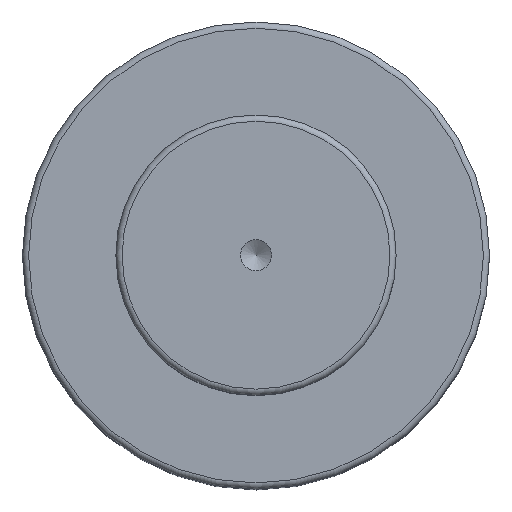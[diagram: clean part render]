
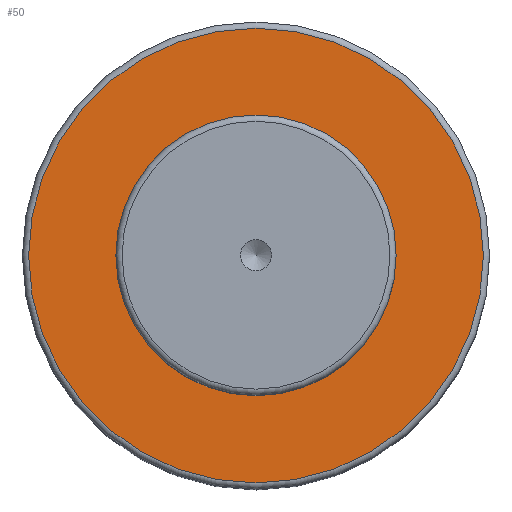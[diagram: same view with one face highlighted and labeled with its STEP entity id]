
A CAD part, top view. The second image highlights one B-rep face of the part: STEP entity #50.
In plain terms, the highlighted planar face has unit normal (0, 0, 1).
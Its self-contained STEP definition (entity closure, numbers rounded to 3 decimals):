
#40=PLANE('',#179);
#50=ADVANCED_FACE('',(#72,#73),#40,.F.);
#72=FACE_BOUND('',#96,.T.);
#73=FACE_BOUND('',#97,.T.);
#96=EDGE_LOOP('',(#118));
#97=EDGE_LOOP('',(#119));
#118=ORIENTED_EDGE('',*,*,#149,.F.);
#119=ORIENTED_EDGE('',*,*,#148,.T.);
#135=VERTEX_POINT('',#256);
#136=VERTEX_POINT('',#259);
#148=EDGE_CURVE('',#135,#135,#159,.T.);
#149=EDGE_CURVE('',#136,#136,#160,.T.);
#159=CIRCLE('',#176,22.5);
#160=CIRCLE('',#178,36.5);
#176=AXIS2_PLACEMENT_3D('',#255,#213,#214);
#178=AXIS2_PLACEMENT_3D('',#258,#217,#218);
#179=AXIS2_PLACEMENT_3D('',#260,#219,#220);
#213=DIRECTION('',(0.,0.,-1.));
#214=DIRECTION('',(-1.,0.,0.));
#217=DIRECTION('',(0.,0.,-1.));
#218=DIRECTION('',(-1.,0.,0.));
#219=DIRECTION('',(0.,0.,-1.));
#220=DIRECTION('',(-1.,0.,0.));
#255=CARTESIAN_POINT('',(0.,0.,76.));
#256=CARTESIAN_POINT('',(-22.5,0.,76.));
#258=CARTESIAN_POINT('',(0.,0.,76.));
#259=CARTESIAN_POINT('',(-36.5,0.,76.));
#260=CARTESIAN_POINT('',(22.5,0.,76.));
